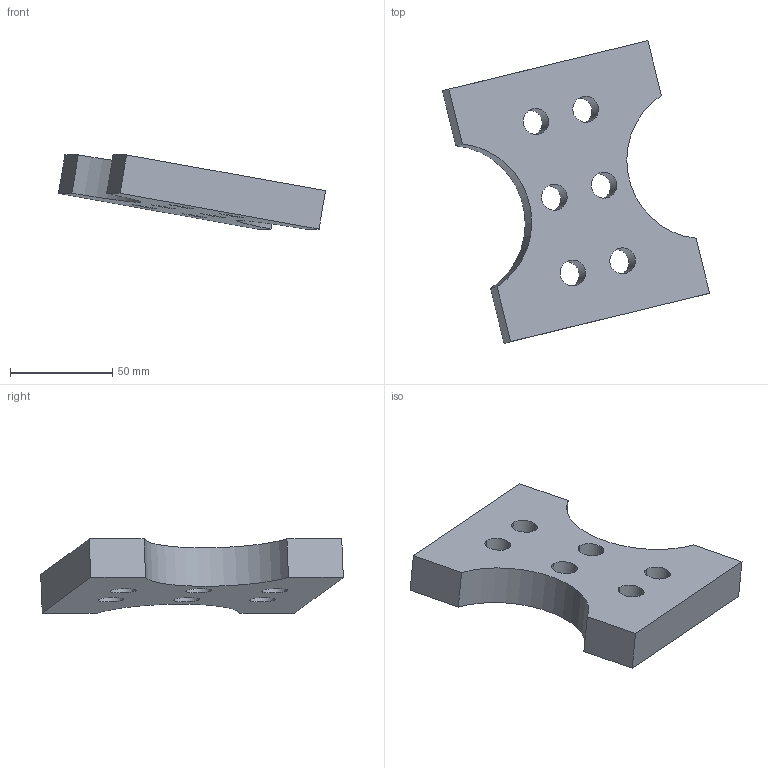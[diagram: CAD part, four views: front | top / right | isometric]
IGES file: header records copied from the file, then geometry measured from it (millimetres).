
Start section: START RECORD GO HERE.
Global section: file name: C:\Documents and Settings\Administrator\Desktop\Temporary Directory\Lesson 5 Exercise 4.igs; native system: IBM CATIA IGES - CATIA Version 5 Release 9 ; preprocessor: CATIA Version 5 Release 9 ; organization: DASSAULT SYSTEMES; date: 20021127.143510; units: inch
Bounding box: 130.5 x 147.87 x 36.23 mm (x, y, z)
Surface area: 33070.2 mm2 (no closed solid volume)
Topology: 0 solids, 0 shells, 22 faces, 128 edges, 128 vertices
Faces by surface type: revolution 14, plane 8
